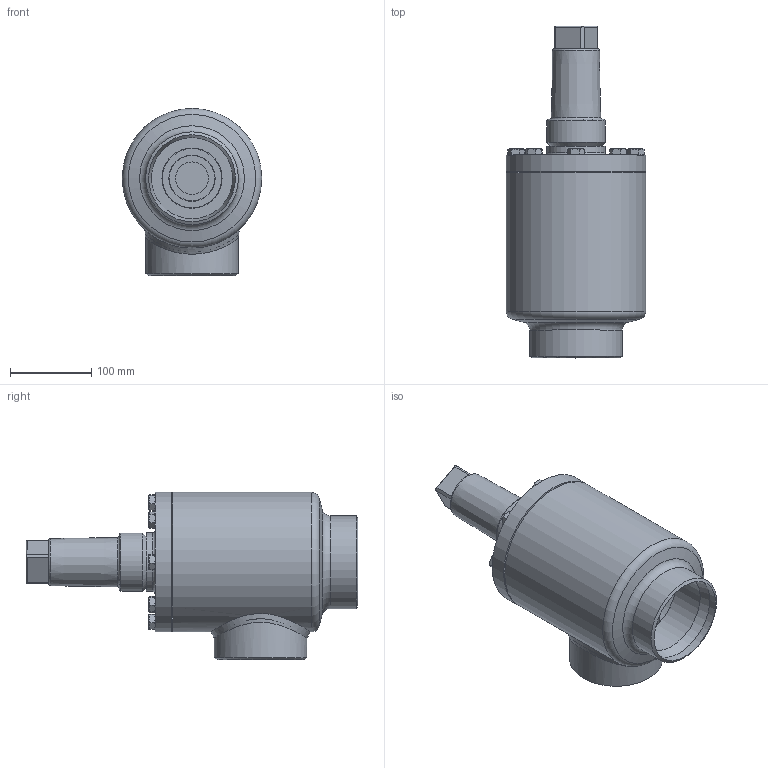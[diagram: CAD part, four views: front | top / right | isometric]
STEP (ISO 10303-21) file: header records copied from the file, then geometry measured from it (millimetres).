
FILE_DESCRIPTION(/* description */ (''),/* implementation_level */ '2;1');
FILE_NAME(/* name */ 'A:\Zeichnungsverwaltung\3D-Zeichnungen\Z-ZG\AVB\16400\19\AVB E AE 16400-100 PS40.stp',/* time_stamp */ '2020-10-28T14:03:32+01:00',/* author */ ('Nazzal.Yo'),/* organization */ (''),/* preprocessor_version */ 'ST-DEVELOPER v16.1',/* originating_system */ 'Autodesk Inventor 2016',/* authorisation */ '');
FILE_SCHEMA (('AUTOMOTIVE_DESIGN { 1 0 10303 214 3 1 1 }'));
Length unit declared in the file: millimetre
Products named in the file (9): 16400E19.5030001_Schweißnähte; A6400E19.5034004; 16400E19.5036004; 16400E19.5030001; Sechskantschraube-DIN933_M12x 35; Deckel16300E19-DN100_Standard; AVB16300E19_Deck+Schr-DN100_Standard; Kappe16402_DN080-100_Standard; AVB E AE 16400-100 PS40
Assembly tree (15 placements, depth 3):
  AVB E AE 16400-100 PS40
    16400E19.5030001
      16400E19.5030001_Schweißnähte
      A6400E19.5034004
      16400E19.5036004
    AVB16300E19_Deck+Schr-DN100_Standard
      Sechskantschraube-DIN933_M12x 35  x8
      Deckel16300E19-DN100_Standard
    Kappe16402_DN080-100_Standard
Bounding box: 172 x 409 x 206 mm (x, y, z)
Volume: 3110281.9 mm3; surface area: 427593.9 mm2
Topology: 13 solids, 13 shells, 295 faces, 627 edges, 379 vertices
Faces by surface type: cone 122, plane 100, cylinder 62, torus 8, bspline 3
Full cylindrical faces by diameter (mm): 10.106 x8, 12 x8, 14 x8, 25 x1, 33 x1, 35 x1, 40.1 x1, 54 x1, 56 x2, 57 x2, 60 x1, 72 x2, 72.5 x1, 73.1 x1, 74.1 x1, 100 x1, 104 x1, 107.1 x2, 108 x1, 114.3 x3, 115 x1, 118 x1, 130 x2, 172 x2
Entity records: 4871 total; most frequent: CARTESIAN_POINT 2013, DIRECTION 581, ORIENTED_EDGE 398, AXIS2_PLACEMENT_3D 275, EDGE_LOOP 244, EDGE_CURVE 199, VERTEX_POINT 163, FACE_OUTER_BOUND 134
